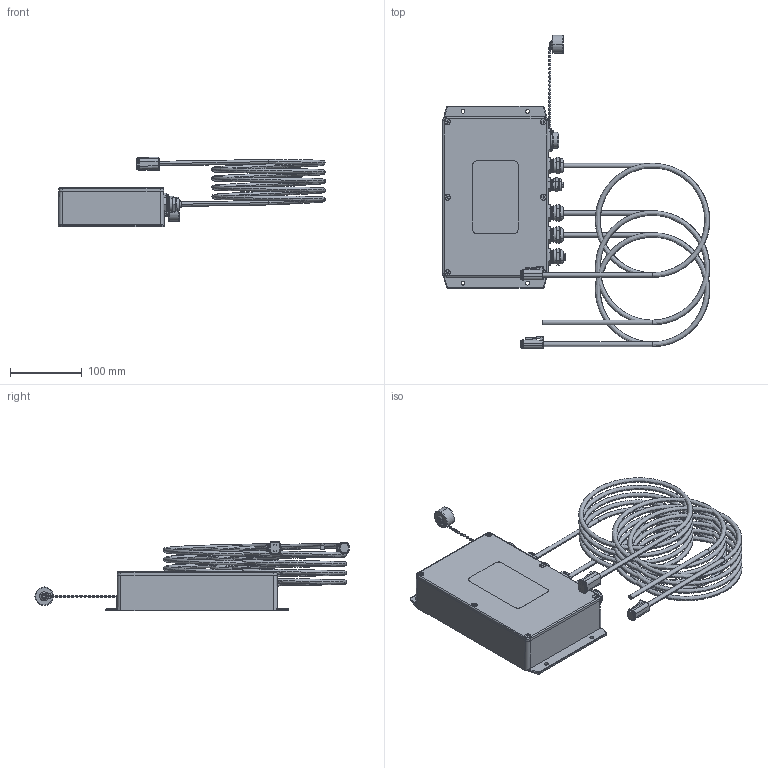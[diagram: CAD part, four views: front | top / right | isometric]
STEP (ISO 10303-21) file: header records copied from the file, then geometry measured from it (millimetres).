
FILE_DESCRIPTION (( 'STEP AP203' ), '1' );
FILE_NAME ('Y7010.step', '2014-05-13T20:20:35', ( 'user' ), ( '' ), 'SwSTEP 2.0', 'SolidWorks 2012', '' );
FILE_SCHEMA (( 'CONFIG_CONTROL_DESIGN' ));
Products named in the file (1): Y7010
Bounding box: 372.7 x 437.59 x 97.54 mm (x, y, z)
Surface area: 295009.1 mm2 (no closed solid volume)
Topology: 0 solids, 60 shells, 700 faces, 2341 edges, 1622 vertices
Faces by surface type: plane 277, cylinder 236, cone 71, sphere 52, torus 43, bspline 21
Entity records: 40179 total; most frequent: CARTESIAN_POINT 20982, DIRECTION 4034, ORIENTED_EDGE 3575, EDGE_CURVE 2217, VERTEX_POINT 1550, AXIS2_PLACEMENT_3D 1479, VECTOR 1076, LINE 1076
